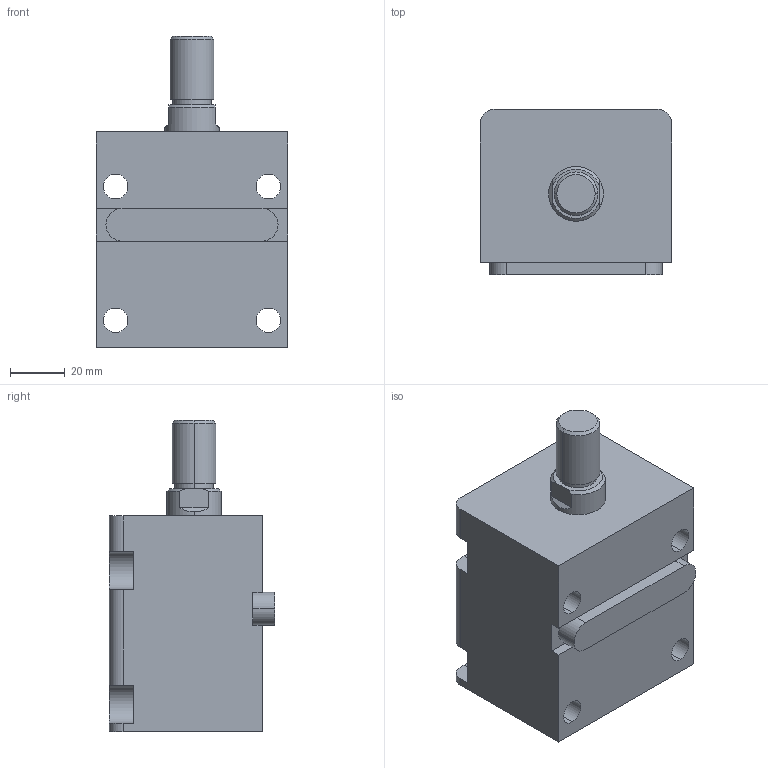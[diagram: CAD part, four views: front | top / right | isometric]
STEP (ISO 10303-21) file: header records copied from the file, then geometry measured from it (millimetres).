
FILE_DESCRIPTION (( 'STEP AP203' ), '1' );
FILE_NAME ('HTB-LA32-25W.STEP', '2019-10-09T06:26:23', ( '微软用户' ), ( '微软中国' ), 'SwSTEP 2.0', 'SolidWorks 2012', '' );
FILE_SCHEMA (( 'CONFIG_CONTROL_DESIGN' ));
Length unit declared in the file: millimetre
Products named in the file (4): HTB-LA32-25掛极; HTB-LA32-25W活塞杆; HTB-LA32-瑩; HTB-LA32-25W
Assembly tree (3 placements, depth 2):
  HTB-LA32-25W
    HTB-LA32-25掛极
    HTB-LA32-25W活塞杆
    HTB-LA32-瑩
Bounding box: 70 x 60.5 x 114 mm (x, y, z)
Volume: 287341.3 mm3; surface area: 52090.7 mm2
Topology: 3 solids, 3 shells, 92 faces, 223 edges, 146 vertices
Faces by surface type: plane 41, cylinder 37, cone 8, torus 6
Entity records: 3159 total; most frequent: DIRECTION 509, CARTESIAN_POINT 495, ORIENTED_EDGE 446, EDGE_CURVE 223, AXIS2_PLACEMENT_3D 196, VERTEX_POINT 146, LINE 117, VECTOR 117
